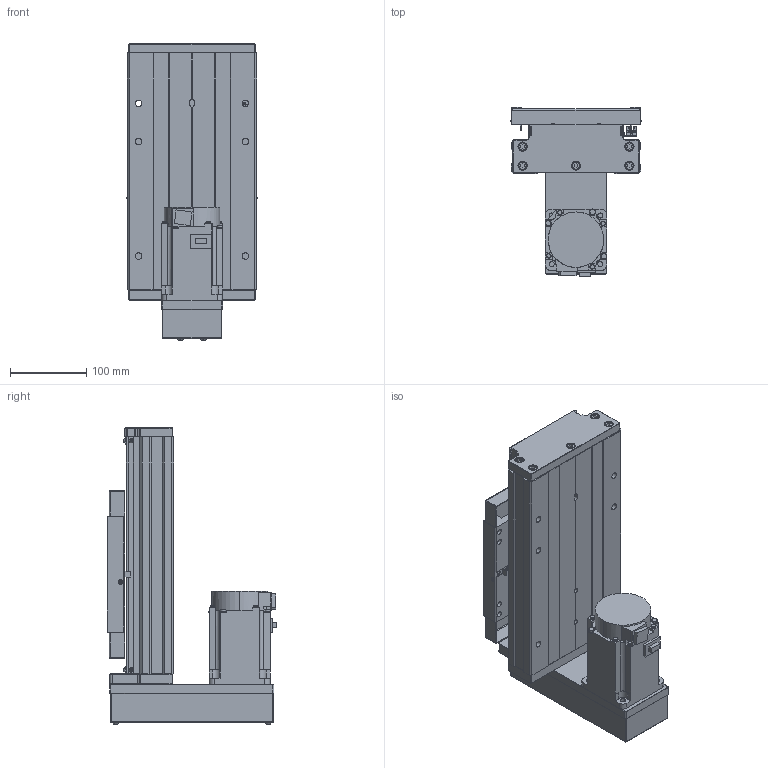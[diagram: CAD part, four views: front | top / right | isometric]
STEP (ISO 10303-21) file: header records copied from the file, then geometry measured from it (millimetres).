
FILE_DESCRIPTION (( 'STEP AP203' ), '1' );
FILE_NAME ('GTH17-50-BM-M75-C4.step', '2023-06-30T12:39:51', ( '微软用户' ), ( '微软中国' ), 'SwSTEP 2.0', 'SolidWorks 2020', '' );
FILE_SCHEMA (( 'CONFIG_CONTROL_DESIGN' ));
Length unit declared in the file: millimetre
Products named in the file (19): GBT 70.2-M4¡Á45_M4¡Á35; GTH17-001_50; CTHA60-016; GBT77-2000 M3×3; GTH17-015-2_CTHA86-015-2; GTH17-002_GTH17-002; GBT 70.1-M3℅5; GBT 70.1-M6¡Á20_M6¡Á20; GTH17-033; GTH17-004; GTH17-031; GTH17-50-BM-M75-C4; GTH17-005; GBT 70.2-M3¡Á5_M3¡Á6; GB1155-6X6; す晦芛蹟隊 M3℅5; CTHA60-017; HG-KN73J-S100; EE_SX911P_R
Assembly tree (58 placements, depth 2):
  GTH17-50-BM-M75-C4
    GTH17-001_50
    GTH17-002_GTH17-002
    GTH17-004
    GTH17-005
    GB1155-6X6  x2
    CTHA60-017  x3
    EE_SX911P_R  x3
    CTHA60-016  x2
    GBT 70.1-M3℅5  x6
    GBT77-2000 M3×3  x6
    GBT 70.1-M6¡Á20_M6¡Á20  x10
    GTH17-031
    GBT 70.2-M3¡Á5_M3¡Á6  x8
    す晦芛蹟隊 M3℅5  x6
    HG-KN73J-S100
    GBT 70.2-M4¡Á45_M4¡Á35  x4
    GTH17-015-2_CTHA86-015-2
    GTH17-033
Bounding box: 171 x 222.3 x 388.2 mm (x, y, z)
Volume: 3903894.7 mm3; surface area: 691638.6 mm2
Topology: 61 solids, 61 shells, 2419 faces, 5773 edges, 3571 vertices
Faces by surface type: plane 1304, cylinder 642, cone 297, torus 124, sphere 32, bspline 20
Entity records: 43814 total; most frequent: CARTESIAN_POINT 10216, DIRECTION 6301, ORIENTED_EDGE 6258, EDGE_CURVE 3129, AXIS2_PLACEMENT_3D 2134, VECTOR 2033, LINE 2033, VERTEX_POINT 1983
